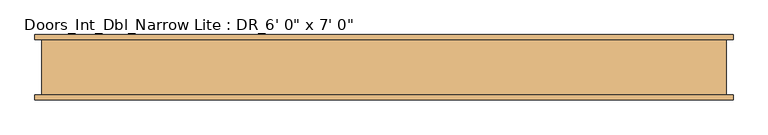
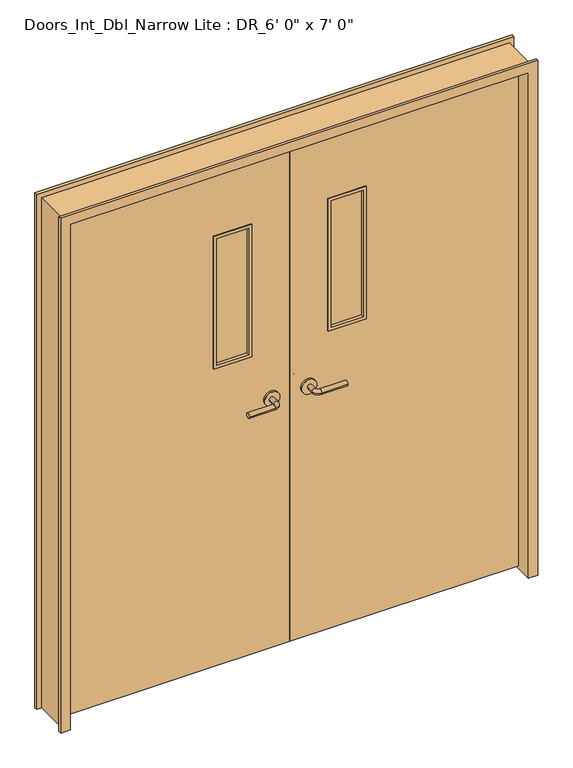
"""IFC4 building model written with IfcOpenShell, lengths in millimetres: door geometry."""

from ifc_helpers import new_model, si_unit, point, frame, frame_2d, origin, place, context, project, spatial, polyline, circle_curve, ellipse_curve, trimmed, segment, composite_curve, outline, extrude, faceted_brep, source, transform, mapped, element, save
from ifc_brep_helpers import plane_surface, cylinder_surface, revolved_surface, advanced_brep


def door_ce7e1004(model_context):
    return source(origin(), model_context, "Body", "SolidModel", [
        advanced_brep(
        [(-66.2, 30.225, 1066.8), (-86.2, 30.225, 1066.8), (-86.2, 60.225, 1066.8), (-66.2, 60.225, 1066.8), (-91.2, 65.225, 1066.8), (-91.2, 85.225, 1066.8), (-196.2, 85.225, 1066.8), (-196.2, 65.225, 1066.8)],
        [
            (0, 1, circle_curve(frame((-76.2, 30.225, 1066.8), z_axis=(0.0, -1.0, 0.0), x_axis=(-0.9999999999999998, 0.0, 0.0)), 10.0)),
            (1, 0, circle_curve(frame((-76.2, 30.225, 1066.8), z_axis=(0.0, -1.0, 0.0), x_axis=(-0.9999999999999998, 0.0, 0.0)), 10.0)),
            (1, 2),
            (2, 3, circle_curve(frame((-76.2, 60.225, 1066.8), z_axis=(0.0, -1.0, 0.0), x_axis=(-0.9999999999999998, 0.0, 0.0)), 10.0)),
            (3, 0),
            (3, 2, circle_curve(frame((-76.2, 60.225, 1066.8), z_axis=(0.0, -1.0, 0.0), x_axis=(-0.9999999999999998, 0.0, 0.0)), 10.0)),
            (4, 5, circle_curve(frame((-91.2, 75.225, 1066.8), z_axis=(0.9999999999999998, 0.0, 0.0), x_axis=(0.0, -0.9999999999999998, 0.0)), 10.0)),
            (5, 3, circle_curve(frame((-91.2, 60.225, 1066.8), z_axis=(0.0, 0.0, -1.0), x_axis=(0.9999999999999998, 0.0, 0.0)), 25.0)),
            (2, 4, circle_curve(frame((-91.2, 60.225, 1066.8), z_axis=(0.0, 0.0, 1.0), x_axis=(0.9999999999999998, 0.0, 0.0)), 5.0)),
            (5, 4, circle_curve(frame((-91.2, 75.225, 1066.8), z_axis=(0.9999999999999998, 0.0, 0.0), x_axis=(0.0, -0.9999999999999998, 0.0)), 10.0)),
            (6, 7, circle_curve(frame((-196.2, 75.225, 1066.8), z_axis=(-1.0, 0.0, 0.0), x_axis=(0.0, -0.9999999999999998, 0.0)), 10.0)),
            (7, 6, circle_curve(frame((-196.2, 75.225, 1066.8), z_axis=(-1.0, 0.0, 0.0), x_axis=(0.0, -0.9999999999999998, 0.0)), 10.0)),
            (4, 7),
            (6, 5),
        ],
        [
            plane_surface(frame((-76.2, 30.225, 1066.8), z_axis=(0.0, -1.0, 0.0), x_axis=(0.0, 0.0, 1.0))),
            cylinder_surface(frame((-76.2, 30.225, 1066.8), z_axis=(0.0, -0.9999999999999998, 0.0), x_axis=(-0.9999999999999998, 0.0, 0.0)), 10.0),
            revolved_surface(trimmed(ellipse_curve(frame((-76.2, 60.225, 1066.8), z_axis=(0.0, 0.9999999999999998, 0.0), x_axis=(-0.9999999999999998, 0.0, 0.0)), 10.0, 10.0), [point((-66.2, 60.225, 1066.8))], [point((-86.2, 60.225, 1066.8))], True, "CARTESIAN"), (-91.2, 60.225, 1066.8), (0.0, 0.0, -1.0)),
            revolved_surface(trimmed(ellipse_curve(frame((-76.2, 60.225, 1066.8), z_axis=(0.0, 0.9999999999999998, 0.0), x_axis=(-0.9999999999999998, 0.0, 0.0)), 10.0, 10.0), [point((-86.2, 60.225, 1066.8))], [point((-66.2, 60.225, 1066.8))], True, "CARTESIAN"), (-91.2, 60.225, 1066.8), (0.0, 0.0, -1.0)),
            plane_surface(frame((-196.2, 75.225, 1066.8), z_axis=(-1.0, 0.0, 0.0), x_axis=(0.0, 0.0, 1.0))),
            cylinder_surface(frame((-91.2, 75.225, 1066.8), z_axis=(0.9999999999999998, 0.0, 0.0), x_axis=(0.0, -0.9999999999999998, 0.0)), 10.0),
        ],
        [
            (0, [[1, 2]]),
            (1, [[3, 4, 5, -2]]),
            (1, [[-5, 6, -3, -1]]),
            (2, [[7, 8, -4, 9]]),
            (3, [[10, -9, -6, -8]]),
            (4, [[11, 12]]),
            (5, [[13, -11, 14, -7]]),
            (5, [[-14, -12, -13, -10]]),
        ],
    ),
        extrude(outline(composite_curve([segment(trimmed(circle_curve(frame_2d((1066.8, -73.7)), 30.0), [point((1066.8, -43.7))], [point((1066.8, -103.7))], False, "CARTESIAN"), True, "CONTINUOUS"), segment(trimmed(circle_curve(frame_2d((1066.8, -73.7)), 30.0), [point((1066.8, -103.7))], [point((1066.8, -43.7))], False, "CARTESIAN"), True, "CONTINUOUS")], self_intersect=False)), frame((0.0, 22.225, 0.0), z_axis=(0.0, 1.0, 0.0), x_axis=(0.0, 0.0, 1.0)), (0.0, 0.0, 1.0), 8.0),
        advanced_brep(
        [(-66.2, -30.225, 1066.8), (-86.2, -30.225, 1066.8), (-66.2, -60.225, 1066.8), (-86.2, -60.225, 1066.8), (-91.2, -65.225, 1066.8), (-91.2, -85.225, 1066.8), (-196.2, -85.225, 1066.8), (-196.2, -65.225, 1066.8)],
        [
            (0, 1, circle_curve(frame((-76.2, -30.225, 1066.8), z_axis=(0.0, 1.0, 0.0), x_axis=(-0.9999999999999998, 0.0, 0.0)), 10.0)),
            (1, 0, circle_curve(frame((-76.2, -30.225, 1066.8), z_axis=(0.0, 1.0, 0.0), x_axis=(-0.9999999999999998, 0.0, 0.0)), 10.0)),
            (0, 2),
            (2, 3, circle_curve(frame((-76.2, -60.225, 1066.8), z_axis=(0.0, 1.0, 0.0), x_axis=(-0.9999999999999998, 0.0, 0.0)), 10.0)),
            (3, 1),
            (3, 2, circle_curve(frame((-76.2, -60.225, 1066.8), z_axis=(0.0, 1.0, 0.0), x_axis=(-0.9999999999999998, 0.0, 0.0)), 10.0)),
            (4, 3, circle_curve(frame((-91.2, -60.225, 1066.8), z_axis=(0.0, 0.0, 1.0), x_axis=(0.9999999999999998, 0.0, 0.0)), 5.0)),
            (2, 5, circle_curve(frame((-91.2, -60.225, 1066.8), z_axis=(0.0, 0.0, -1.0), x_axis=(0.9999999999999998, 0.0, 0.0)), 25.0)),
            (5, 4, circle_curve(frame((-91.2, -75.225, 1066.8), z_axis=(0.9999999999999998, 0.0, 0.0), x_axis=(0.0, 0.9999999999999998, 0.0)), 10.0)),
            (4, 5, circle_curve(frame((-91.2, -75.225, 1066.8), z_axis=(0.9999999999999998, 0.0, 0.0), x_axis=(0.0, 0.9999999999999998, 0.0)), 10.0)),
            (6, 7, circle_curve(frame((-196.2, -75.225, 1066.8), z_axis=(-1.0, 0.0, 0.0), x_axis=(0.0, 0.9999999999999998, 0.0)), 10.0)),
            (7, 6, circle_curve(frame((-196.2, -75.225, 1066.8), z_axis=(-1.0, 0.0, 0.0), x_axis=(0.0, 0.9999999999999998, 0.0)), 10.0)),
            (5, 6),
            (7, 4),
        ],
        [
            plane_surface(frame((-76.2, -30.225, 1066.8), z_axis=(0.0, 1.0, 0.0), x_axis=(0.0, 0.0, 1.0))),
            cylinder_surface(frame((-76.2, -30.225, 1066.8), z_axis=(0.0, 0.9999999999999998, 0.0), x_axis=(-0.9999999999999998, 0.0, 0.0)), 10.0),
            revolved_surface(trimmed(ellipse_curve(frame((-76.2, -60.225, 1066.8), z_axis=(0.0, 0.9999999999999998, 0.0), x_axis=(-0.9999999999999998, 0.0, 0.0)), 10.0, 10.0), [point((-66.2, -60.225, 1066.8))], [point((-86.2, -60.225, 1066.8))], True, "CARTESIAN"), (-91.2, -60.225, 1066.8), (0.0, 0.0, -1.0)),
            revolved_surface(trimmed(ellipse_curve(frame((-76.2, -60.225, 1066.8), z_axis=(0.0, 0.9999999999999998, 0.0), x_axis=(-0.9999999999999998, 0.0, 0.0)), 10.0, 10.0), [point((-86.2, -60.225, 1066.8))], [point((-66.2, -60.225, 1066.8))], True, "CARTESIAN"), (-91.2, -60.225, 1066.8), (0.0, 0.0, -1.0)),
            plane_surface(frame((-196.2, -75.225, 1066.8), z_axis=(-1.0, 0.0, 0.0), x_axis=(0.0, 0.0, 1.0))),
            cylinder_surface(frame((-91.2, -75.225, 1066.8), z_axis=(0.9999999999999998, 0.0, 0.0), x_axis=(0.0, 0.9999999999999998, 0.0)), 10.0),
        ],
        [
            (0, [[1, 2]]),
            (1, [[-1, 3, 4, 5]]),
            (1, [[-2, -5, 6, -3]]),
            (2, [[7, -4, 8, 9]]),
            (3, [[-8, -6, -7, 10]]),
            (4, [[11, 12]]),
            (5, [[-9, 13, -12, 14]]),
            (5, [[-10, -14, -11, -13]]),
        ],
    ),
        extrude(outline(composite_curve([segment(trimmed(circle_curve(frame_2d((1066.8, -73.7)), 30.0), [point((1066.8, -43.7))], [point((1066.8, -103.7))], False, "CARTESIAN"), True, "CONTINUOUS"), segment(trimmed(circle_curve(frame_2d((1066.8, -73.7)), 30.0), [point((1066.8, -103.7))], [point((1066.8, -43.7))], False, "CARTESIAN"), True, "CONTINUOUS")], self_intersect=False)), frame((0.0, -30.225, 0.0), z_axis=(0.0, 1.0, 0.0), x_axis=(0.0, 0.0, 1.0)), (0.0, 0.0, 1.0), 8.0),
        extrude(outline(polyline([(-165.1, -12.7), (-292.1, -12.7), (-292.1, 12.7), (-165.1, 12.7), (-165.1, -12.7)])), frame((0.0, 0.0, 1282.7), z_axis=(0.0, 0.0, 1.0), x_axis=(1.0, 0.0, 0.0)), (0.0, 0.0, 1.0), 533.4),
        extrude(outline(polyline([(1270.0, -304.8), (1270.0, -152.4), (1828.8, -152.4), (1828.8, -304.8), (1270.0, -304.8)]), holes=[polyline([(1282.7, -292.1), (1816.1, -292.1), (1816.1, -165.1), (1282.7, -165.1), (1282.7, -292.1)])]), frame((0.0, -25.4, 0.0), z_axis=(0.0, 1.0, 0.0), x_axis=(0.0, 0.0, 1.0)), (0.0, 0.0, 1.0), 50.8),
        extrude(outline(polyline([(2133.6, 0.0), (2133.6, -914.4), (12.7, -914.4), (12.7, 0.0), (2133.6, 0.0)]), holes=[polyline([(1270.0, -304.8), (1828.8, -304.8), (1828.8, -152.4), (1270.0, -152.4), (1270.0, -304.8)])]), frame((0.0, -22.225, 0.0), z_axis=(0.0, 1.0, 0.0), x_axis=(0.0, 0.0, 1.0)), (0.0, 0.0, 1.0), 44.45),
        advanced_brep(
        [(66.2, 30.225, 1066.8), (86.2, 30.225, 1066.8), (66.2, 60.225, 1066.8), (86.2, 60.225, 1066.8), (91.2, 65.225, 1066.8), (91.2, 85.225, 1066.8), (196.2, 85.225, 1066.8), (196.2, 65.225, 1066.8)],
        [
            (0, 1, circle_curve(frame((76.2, 30.225, 1066.8), z_axis=(0.0, -1.0, 0.0), x_axis=(0.9999999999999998, 0.0, 0.0)), 10.0)),
            (1, 0, circle_curve(frame((76.2, 30.225, 1066.8), z_axis=(0.0, -1.0, 0.0), x_axis=(0.9999999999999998, 0.0, 0.0)), 10.0)),
            (0, 2),
            (2, 3, circle_curve(frame((76.2, 60.225, 1066.8), z_axis=(0.0, -1.0, 0.0), x_axis=(0.9999999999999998, 0.0, 0.0)), 10.0)),
            (3, 1),
            (3, 2, circle_curve(frame((76.2, 60.225, 1066.8), z_axis=(0.0, -1.0, 0.0), x_axis=(0.9999999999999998, 0.0, 0.0)), 10.0)),
            (4, 3, circle_curve(frame((91.2, 60.225, 1066.8), z_axis=(0.0, 0.0, 1.0), x_axis=(-0.9999999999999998, 0.0, 0.0)), 5.0)),
            (2, 5, circle_curve(frame((91.2, 60.225, 1066.8), z_axis=(0.0, 0.0, -1.0), x_axis=(-0.9999999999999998, 0.0, 0.0)), 25.0)),
            (5, 4, circle_curve(frame((91.2, 75.225, 1066.8), z_axis=(-0.9999999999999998, 0.0, 0.0), x_axis=(0.0, -0.9999999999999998, 0.0)), 10.0)),
            (4, 5, circle_curve(frame((91.2, 75.225, 1066.8), z_axis=(-0.9999999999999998, 0.0, 0.0), x_axis=(0.0, -0.9999999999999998, 0.0)), 10.0)),
            (6, 7, circle_curve(frame((196.2, 75.225, 1066.8), z_axis=(1.0, 0.0, 0.0), x_axis=(0.0, -0.9999999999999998, 0.0)), 10.0)),
            (7, 6, circle_curve(frame((196.2, 75.225, 1066.8), z_axis=(1.0, 0.0, 0.0), x_axis=(0.0, -0.9999999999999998, 0.0)), 10.0)),
            (5, 6),
            (7, 4),
        ],
        [
            plane_surface(frame((76.2, 30.225, 1066.8), z_axis=(0.0, -1.0, 0.0), x_axis=(0.0, 0.0, 1.0))),
            cylinder_surface(frame((76.2, 30.225, 1066.8), z_axis=(0.0, -0.9999999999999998, 0.0), x_axis=(0.9999999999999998, 0.0, 0.0)), 10.0),
            revolved_surface(trimmed(ellipse_curve(frame((76.2, 60.225, 1066.8), z_axis=(0.0, -0.9999999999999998, 0.0), x_axis=(0.9999999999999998, 0.0, 0.0)), 10.0, 10.0), [point((66.2, 60.225, 1066.8))], [point((86.2, 60.225, 1066.8))], True, "CARTESIAN"), (91.2, 60.225, 1066.8), (0.0, 0.0, -1.0)),
            revolved_surface(trimmed(ellipse_curve(frame((76.2, 60.225, 1066.8), z_axis=(0.0, -0.9999999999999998, 0.0), x_axis=(0.9999999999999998, 0.0, 0.0)), 10.0, 10.0), [point((86.2, 60.225, 1066.8))], [point((66.2, 60.225, 1066.8))], True, "CARTESIAN"), (91.2, 60.225, 1066.8), (0.0, 0.0, -1.0)),
            plane_surface(frame((196.2, 75.225, 1066.8), z_axis=(1.0, 0.0, 0.0), x_axis=(0.0, 0.0, 1.0))),
            cylinder_surface(frame((91.2, 75.225, 1066.8), z_axis=(-0.9999999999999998, 0.0, 0.0), x_axis=(0.0, -0.9999999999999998, 0.0)), 10.0),
        ],
        [
            (0, [[1, 2]]),
            (1, [[-1, 3, 4, 5]]),
            (1, [[-2, -5, 6, -3]]),
            (2, [[7, -4, 8, 9]]),
            (3, [[-8, -6, -7, 10]]),
            (4, [[11, 12]]),
            (5, [[-9, 13, -12, 14]]),
            (5, [[-10, -14, -11, -13]]),
        ],
    ),
        extrude(outline(composite_curve([segment(trimmed(circle_curve(frame_2d((1066.8, 73.7)), 30.0), [point((1066.8, 43.7))], [point((1066.8, 103.7))], False, "CARTESIAN"), True, "CONTINUOUS"), segment(trimmed(circle_curve(frame_2d((1066.8, 73.7)), 30.0), [point((1066.8, 103.7))], [point((1066.8, 43.7))], False, "CARTESIAN"), True, "CONTINUOUS")], self_intersect=False)), frame((0.0, 22.225, 0.0), z_axis=(0.0, 1.0, 0.0), x_axis=(0.0, 0.0, 1.0)), (0.0, 0.0, 1.0), 8.0),
        advanced_brep(
        [(66.2, -30.225, 1066.8), (86.2, -30.225, 1066.8), (86.2, -60.225, 1066.8), (66.2, -60.225, 1066.8), (91.2, -65.225, 1066.8), (91.2, -85.225, 1066.8), (196.2, -85.225, 1066.8), (196.2, -65.225, 1066.8)],
        [
            (0, 1, circle_curve(frame((76.2, -30.225, 1066.8), z_axis=(0.0, 1.0, 0.0), x_axis=(0.9999999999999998, 0.0, 0.0)), 10.0)),
            (1, 0, circle_curve(frame((76.2, -30.225, 1066.8), z_axis=(0.0, 1.0, 0.0), x_axis=(0.9999999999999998, 0.0, 0.0)), 10.0)),
            (1, 2),
            (2, 3, circle_curve(frame((76.2, -60.225, 1066.8), z_axis=(0.0, 1.0, 0.0), x_axis=(0.9999999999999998, 0.0, 0.0)), 10.0)),
            (3, 0),
            (3, 2, circle_curve(frame((76.2, -60.225, 1066.8), z_axis=(0.0, 1.0, 0.0), x_axis=(0.9999999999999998, 0.0, 0.0)), 10.0)),
            (4, 5, circle_curve(frame((91.2, -75.225, 1066.8), z_axis=(-0.9999999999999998, 0.0, 0.0), x_axis=(0.0, 0.9999999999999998, 0.0)), 10.0)),
            (5, 3, circle_curve(frame((91.2, -60.225, 1066.8), z_axis=(0.0, 0.0, -1.0), x_axis=(-0.9999999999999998, 0.0, 0.0)), 25.0)),
            (2, 4, circle_curve(frame((91.2, -60.225, 1066.8), z_axis=(0.0, 0.0, 1.0), x_axis=(-0.9999999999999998, 0.0, 0.0)), 5.0)),
            (5, 4, circle_curve(frame((91.2, -75.225, 1066.8), z_axis=(-0.9999999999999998, 0.0, 0.0), x_axis=(0.0, 0.9999999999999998, 0.0)), 10.0)),
            (6, 7, circle_curve(frame((196.2, -75.225, 1066.8), z_axis=(1.0, 0.0, 0.0), x_axis=(0.0, 0.9999999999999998, 0.0)), 10.0)),
            (7, 6, circle_curve(frame((196.2, -75.225, 1066.8), z_axis=(1.0, 0.0, 0.0), x_axis=(0.0, 0.9999999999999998, 0.0)), 10.0)),
            (4, 7),
            (6, 5),
        ],
        [
            plane_surface(frame((76.2, -30.225, 1066.8), z_axis=(0.0, 1.0, 0.0), x_axis=(0.0, 0.0, 1.0))),
            cylinder_surface(frame((76.2, -30.225, 1066.8), z_axis=(0.0, 0.9999999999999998, 0.0), x_axis=(0.9999999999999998, 0.0, 0.0)), 10.0),
            revolved_surface(trimmed(ellipse_curve(frame((76.2, -60.225, 1066.8), z_axis=(0.0, -0.9999999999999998, 0.0), x_axis=(0.9999999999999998, 0.0, 0.0)), 10.0, 10.0), [point((66.2, -60.225, 1066.8))], [point((86.2, -60.225, 1066.8))], True, "CARTESIAN"), (91.2, -60.225, 1066.8), (0.0, 0.0, -1.0)),
            revolved_surface(trimmed(ellipse_curve(frame((76.2, -60.225, 1066.8), z_axis=(0.0, -0.9999999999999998, 0.0), x_axis=(0.9999999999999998, 0.0, 0.0)), 10.0, 10.0), [point((86.2, -60.225, 1066.8))], [point((66.2, -60.225, 1066.8))], True, "CARTESIAN"), (91.2, -60.225, 1066.8), (0.0, 0.0, -1.0)),
            plane_surface(frame((196.2, -75.225, 1066.8), z_axis=(1.0, 0.0, 0.0), x_axis=(0.0, 0.0, 1.0))),
            cylinder_surface(frame((91.2, -75.225, 1066.8), z_axis=(-0.9999999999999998, 0.0, 0.0), x_axis=(0.0, 0.9999999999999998, 0.0)), 10.0),
        ],
        [
            (0, [[1, 2]]),
            (1, [[3, 4, 5, -2]]),
            (1, [[-5, 6, -3, -1]]),
            (2, [[7, 8, -4, 9]]),
            (3, [[10, -9, -6, -8]]),
            (4, [[11, 12]]),
            (5, [[13, -11, 14, -7]]),
            (5, [[-14, -12, -13, -10]]),
        ],
    ),
        extrude(outline(composite_curve([segment(trimmed(circle_curve(frame_2d((1066.8, 73.7)), 30.0), [point((1066.8, 43.7))], [point((1066.8, 103.7))], False, "CARTESIAN"), True, "CONTINUOUS"), segment(trimmed(circle_curve(frame_2d((1066.8, 73.7)), 30.0), [point((1066.8, 103.7))], [point((1066.8, 43.7))], False, "CARTESIAN"), True, "CONTINUOUS")], self_intersect=False)), frame((0.0, -30.225, 0.0), z_axis=(0.0, 1.0, 0.0), x_axis=(0.0, 0.0, 1.0)), (0.0, 0.0, 1.0), 8.0),
        extrude(outline(polyline([(165.1, -12.7), (165.1, 12.7), (292.1, 12.7), (292.1, -12.7), (165.1, -12.7)])), frame((0.0, 0.0, 1282.7), z_axis=(0.0, 0.0, 1.0), x_axis=(1.0, 0.0, 0.0)), (0.0, 0.0, 1.0), 533.4),
        extrude(outline(polyline([(1270.0, 304.8), (1828.8, 304.8), (1828.8, 152.4), (1270.0, 152.4), (1270.0, 304.8)]), holes=[polyline([(1282.7, 292.1), (1282.7, 165.1), (1816.1, 165.1), (1816.1, 292.1), (1282.7, 292.1)])]), frame((0.0, -25.4, 0.0), z_axis=(0.0, 1.0, 0.0), x_axis=(0.0, 0.0, 1.0)), (0.0, 0.0, 1.0), 50.8),
        extrude(outline(polyline([(2133.6, 0.0), (12.7, 0.0), (12.7, 914.4), (2133.6, 914.4), (2133.6, 0.0)]), holes=[polyline([(1270.0, 304.8), (1270.0, 152.4), (1828.8, 152.4), (1828.8, 304.8), (1270.0, 304.8)])]), frame((0.0, -22.225, 0.0), z_axis=(0.0, 1.0, 0.0), x_axis=(0.0, 0.0, 1.0)), (0.0, 0.0, 1.0), 44.45),
        faceted_brep([(-914.4, -88.9, 0.0), (-952.5, -88.9, 0.0), (-952.5, -76.2, 0.0), (-933.45, -76.2, 0.0), (-933.45, 76.2, 0.0), (-952.5, 76.2, 0.0), (-952.5, 88.9, 0.0), (-914.4, 88.9, 0.0), (-914.4, -88.9, 2133.6), (914.4, -88.9, 2133.6), (914.4, -88.9, 0.0), (952.5, -88.9, 0.0), (952.5, -88.9, 2171.7), (-952.5, -88.9, 2171.7), (-952.5, -76.2, 2171.7), (952.5, -76.2, 2171.7), (952.5, -76.2, 0.0), (933.45, -76.2, 0.0), (933.45, -76.2, 2152.65), (-933.45, -76.2, 2152.65), (-933.45, 76.2, 2152.65), (933.45, 76.2, 2152.65), (933.45, 76.2, 0.0), (952.5, 76.2, 0.0), (952.5, 76.2, 2171.7), (-952.5, 76.2, 2171.7), (-952.5, 88.9, 2171.7), (952.5, 88.9, 2171.7), (952.5, 88.9, 0.0), (914.4, 88.9, 0.0), (914.4, 88.9, 2133.6), (-914.4, 88.9, 2133.6)], [[[0, 1, 2, 3, 4, 5, 6, 7]], [[1, 0, 8, 9, 10, 11, 12, 13]], [[2, 1, 13, 14]], [[3, 2, 14, 15, 16, 17, 18, 19]], [[4, 3, 19, 20]], [[5, 4, 20, 21, 22, 23, 24, 25]], [[6, 5, 25, 26]], [[7, 6, 26, 27, 28, 29, 30, 31]], [[0, 7, 31, 8]], [[9, 30, 29, 10]], [[10, 29, 28, 23, 22, 17, 16, 11]], [[15, 12, 11, 16]], [[27, 24, 23, 28]], [[21, 18, 17, 22]], [[20, 19, 18, 21]], [[8, 31, 30, 9]], [[26, 25, 24, 27]], [[14, 13, 12, 15]]]),
    ])


if __name__ == "__main__":
    model = new_model("IFC4")
    model_context = context("Model", 3, world=origin())
    ifc_project = project(units=[si_unit("LENGTHUNIT", "METRE", prefix="MILLI")], contexts=[model_context])
    site = spatial("IfcSite", under=ifc_project)
    building = spatial("IfcBuilding", under=site)
    placement = place(None, origin())
    door_shape = door_ce7e1004(model_context)
    element("IfcDoor", 1, ObjectType="Doors_Int_Dbl_Narrow Lite : DR_6' 0\" x 7' 0\"", at=placement, inside=building, context=model_context, shape_type="MappedRepresentation", body=[
        mapped(door_shape, transform((0.0, 0.0, 0.0), x_axis=(1.0, 0.0, 0.0), y_axis=(0.0, 1.0, 0.0), z_axis=(0.0, 0.0, 1.0))),
    ])
    save(model, "model.ifc")
